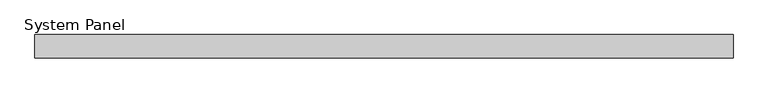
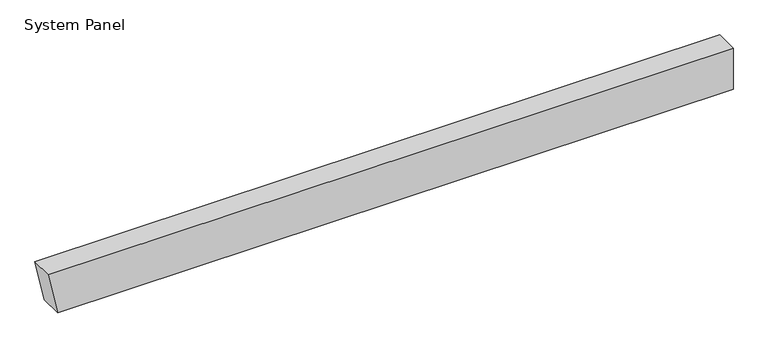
"""IFC4 building model written with IfcOpenShell, lengths in millimetres: plate geometry, System Panel : MetecnoPanel 200mm Horizontal - Plain Astro - PIR."""

from ifc_helpers import new_model, si_unit, frame, origin, place, context, project, spatial, polyline, outline, extrude, source, transform, mapped, element, save


def system_panel_ed6e4fb9(model_context):
    return source(origin(), model_context, "Body", "SweptSolid", [
        extrude(outline(polyline([(0.0, -2907.3970701), (0.0, 2990.0), (379.9704237, 2990.0), (379.9704237, -2990.0), (0.0, -2907.3970701)])), frame((0.0, -200.0, 0.0), z_axis=(0.0, 1.0, 0.0), x_axis=(0.0, 0.0, 1.0)), (0.0, 0.0, 1.0), 200.0),
    ])


if __name__ == "__main__":
    model = new_model("IFC4")
    model_context = context("Model", 3, world=origin())
    ifc_project = project(units=[si_unit("LENGTHUNIT", "METRE", prefix="MILLI")], contexts=[model_context])
    site = spatial("IfcSite", under=ifc_project)
    building = spatial("IfcBuilding", under=site)
    placement = place(None, origin())
    system_panel_shape = system_panel_ed6e4fb9(model_context)
    element("IfcPlate", 1, ObjectType="System Panel : MetecnoPanel 200mm Horizontal - Plain Astro - PIR", at=placement, inside=building, context=model_context, shape_type="MappedRepresentation", body=[
        mapped(system_panel_shape, transform((0.0, 0.0, 0.0), x_axis=(1.0, 0.0, 0.0), y_axis=(0.0, 1.0, 0.0), z_axis=(0.0, 0.0, 1.0))),
    ])
    save(model, "model.ifc")
